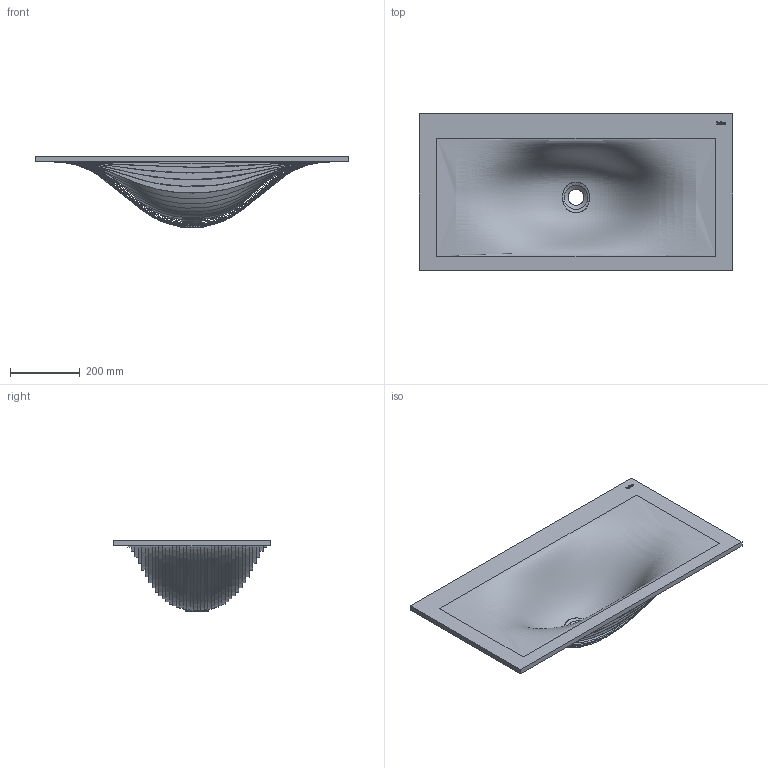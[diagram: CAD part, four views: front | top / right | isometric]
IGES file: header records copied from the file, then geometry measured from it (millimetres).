
Global section: file name: C:\Users\hp\Desktop\5010_Laos\5010_Laos.igs; native system: Rhinoceros ( Sep 10 2024 ); preprocessor: Trout Lake IGES 012 Sep 10 2024; date: 241016.104308; units: millimetre
Bounding box: 900 x 450 x 203.12 mm (x, y, z)
Surface area: 1101868.4 mm2 (no closed solid volume)
Topology: 0 solids, 0 shells, 245 faces, 1590 edges, 1572 vertices
Faces by surface type: bspline 245
